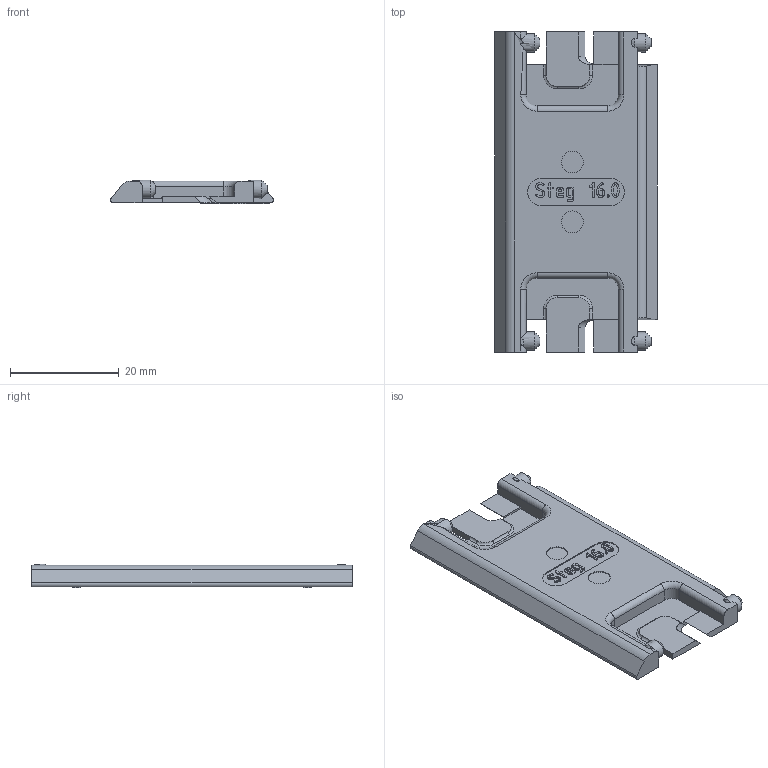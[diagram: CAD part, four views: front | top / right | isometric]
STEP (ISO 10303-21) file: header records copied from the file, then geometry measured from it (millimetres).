
FILE_DESCRIPTION((''),'2;1');
FILE_NAME('C:\Uebbing\PARAMETERKETTEN\KOLIBRI\Kol_40_075_2\Kol_40_075_2_Klappsteg.stp','2011-11-02T13:00:41',('Uebbing'),(''),'Autodesk Inventor 10','Autodesk Inventor 10','');
FILE_SCHEMA(('AUTOMOTIVE_DESIGN { 1 0 10303 214 1 1 1 1 }'));
Length unit declared in the file: millimetre
Products named in the file (1): Kol_40_075_2_Klappsteg
Bounding box: 30 x 59 x 4.4 mm (x, y, z)
Volume: 5005.7 mm3; surface area: 4086.6 mm2
Topology: 1 solids, 1 shells, 299 faces, 827 edges, 547 vertices
Faces by surface type: plane 123, bspline 116, cylinder 52, cone 4, torus 4
Full cylindrical faces by diameter (mm): 3.4 x4, 4 x2
Entity records: 10333 total; most frequent: CARTESIAN_POINT 3420, ORIENTED_EDGE 1628, DIRECTION 1076, EDGE_CURVE 814, VERTEX_POINT 544, VECTOR 460, LINE 460, EDGE_LOOP 326
